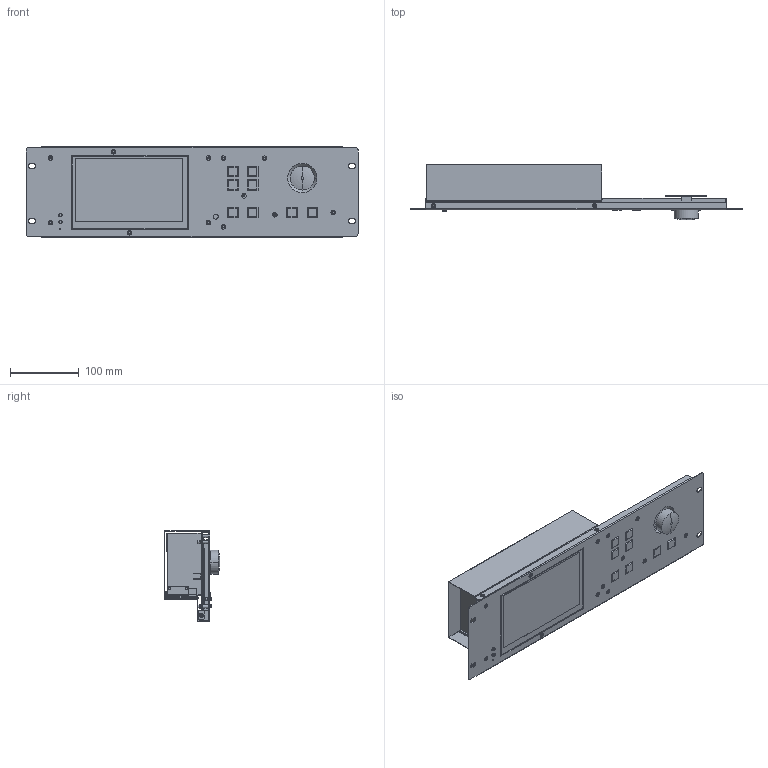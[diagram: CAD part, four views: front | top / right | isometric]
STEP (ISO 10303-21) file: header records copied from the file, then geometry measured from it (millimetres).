
FILE_DESCRIPTION(('Creo Elements/Direct Modeling STEP Export'),'2;1');
FILE_NAME('CMU2-RACK.stp','2025-12-19T13:38:21',(''),(''),'PTC Creo Elements/Direct Modeling STEP processor for AP214 (Solid Model)','PTC Creo Elements/Direct Modeling 19.0 09-May-2014 (C) Parametric Technology GmbH','');
FILE_SCHEMA(('AUTOMOTIVE_DESIGN { 1 0 10303 214 1 1 1 1 }'));
Length unit declared in the file: millimetre
Products named in the file (1459): P2-27070.PRT; P2-27400.ASM; PCB2.PRT; A1-630140.ASM; KEY.PRT; PCB.PRT; A2-620880.ASM; _X2_65CB9215_X0_.PRT; 3U-CMU2.ASM; 9727R_PCB.PRT; 916486240_ASM.PRT; 916485920_ASM.PRT; 1FF1-P110I-04_ASM.PRT; 707962368_ASM.PRT; CN21_ASM_1.ASM; 837853424_ASM.PRT; R552_ASM.ASM; U514_ASM.PRT; 837853272_ASM.PRT; R546_ASM.ASM; R517_ASM-597870.ASM; R521_ASM-597540.ASM; R523_ASM-597210.ASM; R525_ASM.ASM; R527_ASM-596550.ASM; U515_ASM.PRT; 703830800_ASM.PRT; 703830640_ASM.PRT; BC55_ASM.ASM; C500_ASM.PRT; C510_ASM-594890.PRT; C511_ASM-594650.PRT; C512_ASM-594410.PRT; C513_ASM-594170.PRT; C514_ASM.PRT; C515_ASM.PRT; C516_ASM-593450.PRT; C517_ASM-593210.PRT; C518_ASM-592970.PRT; C519_ASM-592730.PRT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
Assembly tree (2931 placements, depth 12):
  CMU2-RACK.stp
    CMU2-_X2_55AE6A5F_X0_.ASM
      A1-878200.ASM
        A_X2_677F_X0__1.PRT
        44.PRT
        C_X2_677F_X0__1.ASM
          PCB_1_9_PRT.PRT
          A1-713210.ASM
            PHONE_JACK_2_2_PRT.PRT
            PHONE_JACK_1_1_PRT.PRT  x2
            ME030-50-2_3_PRT_10.PRT
            JS100107_1_1_ASM_3_PRT_1_PRT.PRT
            HS112_1_ASM_2_PRT_1_PRT.PRT
            EE_2_PRT_10_1_PRT_1.PRT
        B1_X2_677F_X0_.ASM
          PCB_24_PRT_3_PRT.PRT
          20.PRT
          A2-832760.ASM
            _____2_2_PRT.PRT
            CN56_ASM_ASM_1_ASM_1.ASM  x4
              703830480_ASM_ASM_1_ASM.ASM
                EXTRUDED-183775_PRT_2_PRT.PRT
              703830960_ASM_ASM_1_ASM.ASM
                EXTRUDED-180205_PRT_2_PRT.PRT
              1FF1-DH2L-04_2895032743_ASM_ASM.ASM
                EXTRUDED-177848_PRT_2_PRT.PRT
              1FF1-DH2L-04_2931611402_ASM_ASM.ASM
                EXTRUDED-176218_PRT_2_PRT.PRT
              1FF1-DH2L-04_2786087784_ASM_ASM.ASM
                EXTRUDED-174598_PRT_2_PRT.PRT
              1FF1-DH2L-04_ASM_ASM_1_ASM.ASM
                EXTRUDED-173914_PRT_2_PRT.PRT
            ME030-508_2_PRT.PRT
        D.ASM  x3
          CMU2-PCBD1_2_PRT.PRT
          P3_1_1_1.PRT
          EEEE.PRT
          SUB-9PIN_1.PRT
      _S___X2_0192_X0__S__Y_1.PRT
      SHIELD_1.PRT
      CMU2-ASM-20210701_STP.ASM
        ADMI1F042321JHOF_ASM.PRT
      P1_1_3_2.PRT  x3
      CMU2-SINGLE-V3_ASM_STP.ASM
        CMU2-SINGLE-V3_ASM_43_ASM.ASM
          DIN_ASM_2_ASM.ASM
            DIN_1_ASM_2_ASM.ASM
              DDD_1_PRT.PRT
            M3_X2_87BA6BCD_X0__1.PRT  x2
            M3_X2_87BA6BCD_X0_.PRT
      MSBO1351.PRT  x2
    LCD-1_14_PRT-660380.ASM
      LCD-1_14_PRT-659970.PRT
    A1-647020.ASM
      P1_1_3_2.PRT
    A1_1-631540.ASM
      A1-92100.ASM
        P3.PRT  x6
        M4X8.PRT
        P1.PRT
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Bounding box: 483.6 x 80.85 x 132 mm (x, y, z)
Volume: 566143.7 mm3; surface area: 644823 mm2
Topology: 137 solids, 137 shells, 3361 faces, 8752 edges, 5764 vertices
Faces by surface type: plane 2469, cylinder 744, torus 70, cone 56, sphere 14, bspline 8
Entity records: 88103 total; most frequent: DIRECTION 12400, CARTESIAN_POINT 10757, ORIENTED_EDGE 7168, AXIS2_PLACEMENT_3D 4851, PRODUCT_DEFINITION_SHAPE 4390, DIMENSIONAL_EXPONENTS 4377, EDGE_CURVE 3584, ITEM_DEFINED_TRANSFORMATION 2931
